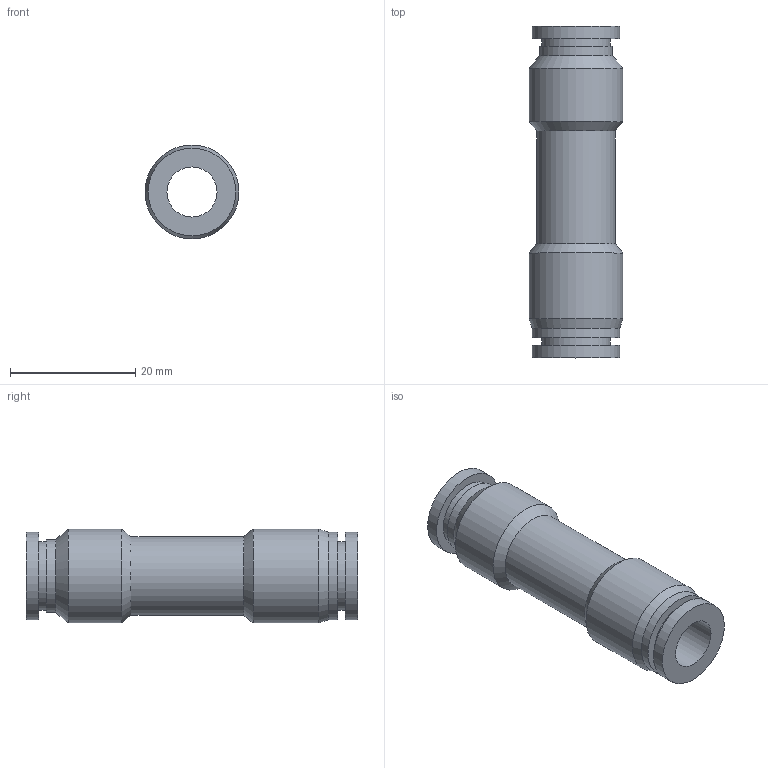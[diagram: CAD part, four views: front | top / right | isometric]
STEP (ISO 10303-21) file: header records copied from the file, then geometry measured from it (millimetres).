
FILE_DESCRIPTION(/* description */ (''),/* implementation_level */ '2;1');
FILE_NAME(/* name */ 'S:\_Tecnico\ArchivioUT\_Disegni3D ingombri\DISEGNI 3D per ingombri\RF\RF220008.stp',/* time_stamp */ '2023-02-24T12:04:36+01:00',/* author */ ('utente'),/* organization */ (''),/* preprocessor_version */ 'ST-DEVELOPER v19',/* originating_system */ 'Autodesk Inventor 2023',/* authorisation */ '');
FILE_SCHEMA (('AUTOMOTIVE_DESIGN { 1 0 10303 214 3 1 1 }'));
Length unit declared in the file: millimetre
Products named in the file (1): RF220008
Bounding box: 15 x 53 x 15 mm (x, y, z)
Volume: 5122.2 mm3; surface area: 4063.2 mm2
Topology: 1 solids, 1 shells, 20 faces, 34 edges, 20 vertices
Faces by surface type: cylinder 10, plane 6, cone 4
Full cylindrical faces by diameter (mm): 8 x1, 11 x2, 11.667 x1, 12.5 x1, 14 x3, 15 x2
Entity records: 521 total; most frequent: DIRECTION 96, CARTESIAN_POINT 75, ORIENTED_EDGE 68, AXIS2_PLACEMENT_3D 41, EDGE_CURVE 34, EDGE_LOOP 26, FACE_OUTER_BOUND 20, CIRCLE 20
